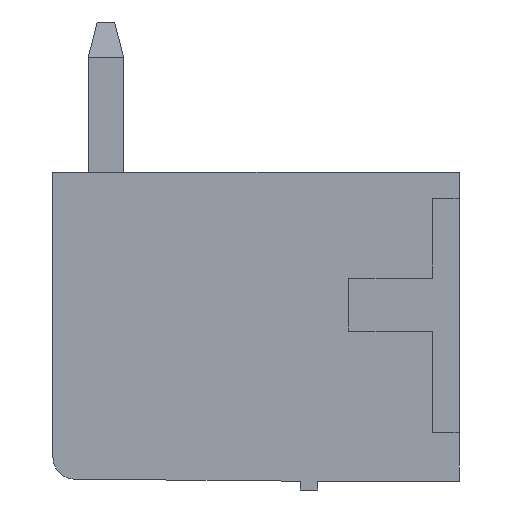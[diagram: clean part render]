
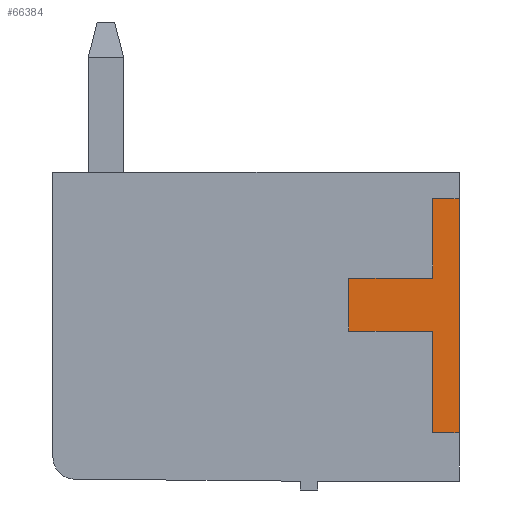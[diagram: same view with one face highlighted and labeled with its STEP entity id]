
A CAD part, left-side view. The second image highlights one B-rep face of the part: STEP entity #66384.
In plain terms, the highlighted planar face has unit normal (-1, 0, 0).
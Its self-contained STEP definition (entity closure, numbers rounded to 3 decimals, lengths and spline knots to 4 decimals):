
#44 = PLANE('',#45);
#45 = AXIS2_PLACEMENT_3D('',#46,#47,#48);
#46 = CARTESIAN_POINT('',(0.,0.,7.));
#47 = DIRECTION('',(0.,-1.,0.));
#48 = DIRECTION('',(0.,0.,-1.));
#363 = VERTEX_POINT('',#364);
#364 = CARTESIAN_POINT('',(-0.2,0.,1.1));
#378 = PLANE('',#379);
#379 = AXIS2_PLACEMENT_3D('',#380,#381,#382);
#380 = CARTESIAN_POINT('',(0.,0.6,1.1));
#381 = DIRECTION('',(0.,0.,-1.));
#382 = DIRECTION('',(0.,-1.,0.));
#390 = EDGE_CURVE('',#363,#391,#393,.T.);
#391 = VERTEX_POINT('',#392);
#392 = CARTESIAN_POINT('',(-0.2,0.,6.4));
#393 = SURFACE_CURVE('',#394,(#398,#405),.PCURVE_S1.);
#394 = LINE('',#395,#396);
#395 = CARTESIAN_POINT('',(-0.2,0.,1.1));
#396 = VECTOR('',#397,1.);
#397 = DIRECTION('',(0.,0.,1.));
#398 = PCURVE('',#44,#399);
#399 = DEFINITIONAL_REPRESENTATION('',(#400),#404);
#400 = LINE('',#401,#402);
#401 = CARTESIAN_POINT('',(5.9,-0.2));
#402 = VECTOR('',#403,1.);
#403 = DIRECTION('',(-1.,0.));
#404 = ( GEOMETRIC_REPRESENTATION_CONTEXT(2) 
PARAMETRIC_REPRESENTATION_CONTEXT() REPRESENTATION_CONTEXT('2D SPACE',''
  ) );
#405 = PCURVE('',#406,#411);
#406 = PLANE('',#407);
#407 = AXIS2_PLACEMENT_3D('',#408,#409,#410);
#408 = CARTESIAN_POINT('',(-0.2,0.,0.));
#409 = DIRECTION('',(-1.,0.,0.));
#410 = DIRECTION('',(0.,0.,1.));
#411 = DEFINITIONAL_REPRESENTATION('',(#412),#416);
#412 = LINE('',#413,#414);
#413 = CARTESIAN_POINT('',(1.1,0.));
#414 = VECTOR('',#415,1.);
#415 = DIRECTION('',(1.,0.));
#416 = ( GEOMETRIC_REPRESENTATION_CONTEXT(2) 
PARAMETRIC_REPRESENTATION_CONTEXT() REPRESENTATION_CONTEXT('2D SPACE',''
  ) );
#434 = PLANE('',#435);
#435 = AXIS2_PLACEMENT_3D('',#436,#437,#438);
#436 = CARTESIAN_POINT('',(0.,0.,6.4));
#437 = DIRECTION('',(0.,0.,1.));
#438 = DIRECTION('',(0.,1.,0.));
#18736 = PLANE('',#18737);
#18737 = AXIS2_PLACEMENT_3D('',#18738,#18739,#18740);
#18738 = CARTESIAN_POINT('',(0.,0.6,6.4));
#18739 = DIRECTION('',(0.,1.,0.));
#18740 = DIRECTION('',(0.,0.,-1.));
#18764 = PLANE('',#18765);
#18765 = AXIS2_PLACEMENT_3D('',#18766,#18767,#18768);
#18766 = CARTESIAN_POINT('',(0.,0.6,4.6));
#18767 = DIRECTION('',(0.,0.,1.));
#18768 = DIRECTION('',(0.,1.,0.));
#18792 = PLANE('',#18793);
#18793 = AXIS2_PLACEMENT_3D('',#18794,#18795,#18796);
#18794 = CARTESIAN_POINT('',(0.,2.5,4.6));
#18795 = DIRECTION('',(0.,1.,0.));
#18796 = DIRECTION('',(0.,0.,-1.));
#18820 = PLANE('',#18821);
#18821 = AXIS2_PLACEMENT_3D('',#18822,#18823,#18824);
#18822 = CARTESIAN_POINT('',(0.,2.5,3.4));
#18823 = DIRECTION('',(0.,0.,-1.));
#18824 = DIRECTION('',(0.,-1.,0.));
#18848 = PLANE('',#18849);
#18849 = AXIS2_PLACEMENT_3D('',#18850,#18851,#18852);
#18850 = CARTESIAN_POINT('',(0.,0.6,3.4));
#18851 = DIRECTION('',(0.,1.,0.));
#18852 = DIRECTION('',(0.,0.,-1.));
#66341 = EDGE_CURVE('',#391,#66342,#66344,.T.);
#66342 = VERTEX_POINT('',#66343);
#66343 = CARTESIAN_POINT('',(-0.2,0.6,6.4));
#66344 = SURFACE_CURVE('',#66345,(#66349,#66356),.PCURVE_S1.);
#66345 = LINE('',#66346,#66347);
#66346 = CARTESIAN_POINT('',(-0.2,0.,6.4));
#66347 = VECTOR('',#66348,1.);
#66348 = DIRECTION('',(0.,1.,0.));
#66349 = PCURVE('',#434,#66350);
#66350 = DEFINITIONAL_REPRESENTATION('',(#66351),#66355);
#66351 = LINE('',#66352,#66353);
#66352 = CARTESIAN_POINT('',(0.,0.2));
#66353 = VECTOR('',#66354,1.);
#66354 = DIRECTION('',(1.,0.));
#66355 = ( GEOMETRIC_REPRESENTATION_CONTEXT(2) 
PARAMETRIC_REPRESENTATION_CONTEXT() REPRESENTATION_CONTEXT('2D SPACE',''
  ) );
#66356 = PCURVE('',#406,#66357);
#66357 = DEFINITIONAL_REPRESENTATION('',(#66358),#66362);
#66358 = LINE('',#66359,#66360);
#66359 = CARTESIAN_POINT('',(6.4,0.));
#66360 = VECTOR('',#66361,1.);
#66361 = DIRECTION('',(0.,1.));
#66362 = ( GEOMETRIC_REPRESENTATION_CONTEXT(2) 
PARAMETRIC_REPRESENTATION_CONTEXT() REPRESENTATION_CONTEXT('2D SPACE',''
  ) );
#66384 = ADVANCED_FACE('',(#66385),#406,.T.);
#66385 = FACE_BOUND('',#66386,.F.);
#66386 = EDGE_LOOP('',(#66387,#66388,#66389,#66412,#66435,#66458,#66481,
    #66504));
#66387 = ORIENTED_EDGE('',*,*,#66341,.F.);
#66388 = ORIENTED_EDGE('',*,*,#390,.F.);
#66389 = ORIENTED_EDGE('',*,*,#66390,.F.);
#66390 = EDGE_CURVE('',#66391,#363,#66393,.T.);
#66391 = VERTEX_POINT('',#66392);
#66392 = CARTESIAN_POINT('',(-0.2,0.6,1.1));
#66393 = SURFACE_CURVE('',#66394,(#66398,#66405),.PCURVE_S1.);
#66394 = LINE('',#66395,#66396);
#66395 = CARTESIAN_POINT('',(-0.2,0.6,1.1));
#66396 = VECTOR('',#66397,1.);
#66397 = DIRECTION('',(0.,-1.,0.));
#66398 = PCURVE('',#406,#66399);
#66399 = DEFINITIONAL_REPRESENTATION('',(#66400),#66404);
#66400 = LINE('',#66401,#66402);
#66401 = CARTESIAN_POINT('',(1.1,0.6));
#66402 = VECTOR('',#66403,1.);
#66403 = DIRECTION('',(0.,-1.));
#66404 = ( GEOMETRIC_REPRESENTATION_CONTEXT(2) 
PARAMETRIC_REPRESENTATION_CONTEXT() REPRESENTATION_CONTEXT('2D SPACE',''
  ) );
#66405 = PCURVE('',#378,#66406);
#66406 = DEFINITIONAL_REPRESENTATION('',(#66407),#66411);
#66407 = LINE('',#66408,#66409);
#66408 = CARTESIAN_POINT('',(0.,0.2));
#66409 = VECTOR('',#66410,1.);
#66410 = DIRECTION('',(1.,0.));
#66411 = ( GEOMETRIC_REPRESENTATION_CONTEXT(2) 
PARAMETRIC_REPRESENTATION_CONTEXT() REPRESENTATION_CONTEXT('2D SPACE',''
  ) );
#66412 = ORIENTED_EDGE('',*,*,#66413,.F.);
#66413 = EDGE_CURVE('',#66414,#66391,#66416,.T.);
#66414 = VERTEX_POINT('',#66415);
#66415 = CARTESIAN_POINT('',(-0.2,0.6,3.4));
#66416 = SURFACE_CURVE('',#66417,(#66421,#66428),.PCURVE_S1.);
#66417 = LINE('',#66418,#66419);
#66418 = CARTESIAN_POINT('',(-0.2,0.6,3.4));
#66419 = VECTOR('',#66420,1.);
#66420 = DIRECTION('',(0.,0.,-1.));
#66421 = PCURVE('',#406,#66422);
#66422 = DEFINITIONAL_REPRESENTATION('',(#66423),#66427);
#66423 = LINE('',#66424,#66425);
#66424 = CARTESIAN_POINT('',(3.4,0.6));
#66425 = VECTOR('',#66426,1.);
#66426 = DIRECTION('',(-1.,0.));
#66427 = ( GEOMETRIC_REPRESENTATION_CONTEXT(2) 
PARAMETRIC_REPRESENTATION_CONTEXT() REPRESENTATION_CONTEXT('2D SPACE',''
  ) );
#66428 = PCURVE('',#18848,#66429);
#66429 = DEFINITIONAL_REPRESENTATION('',(#66430),#66434);
#66430 = LINE('',#66431,#66432);
#66431 = CARTESIAN_POINT('',(0.,0.2));
#66432 = VECTOR('',#66433,1.);
#66433 = DIRECTION('',(1.,0.));
#66434 = ( GEOMETRIC_REPRESENTATION_CONTEXT(2) 
PARAMETRIC_REPRESENTATION_CONTEXT() REPRESENTATION_CONTEXT('2D SPACE',''
  ) );
#66435 = ORIENTED_EDGE('',*,*,#66436,.F.);
#66436 = EDGE_CURVE('',#66437,#66414,#66439,.T.);
#66437 = VERTEX_POINT('',#66438);
#66438 = CARTESIAN_POINT('',(-0.2,2.5,3.4));
#66439 = SURFACE_CURVE('',#66440,(#66444,#66451),.PCURVE_S1.);
#66440 = LINE('',#66441,#66442);
#66441 = CARTESIAN_POINT('',(-0.2,2.5,3.4));
#66442 = VECTOR('',#66443,1.);
#66443 = DIRECTION('',(0.,-1.,0.));
#66444 = PCURVE('',#406,#66445);
#66445 = DEFINITIONAL_REPRESENTATION('',(#66446),#66450);
#66446 = LINE('',#66447,#66448);
#66447 = CARTESIAN_POINT('',(3.4,2.5));
#66448 = VECTOR('',#66449,1.);
#66449 = DIRECTION('',(0.,-1.));
#66450 = ( GEOMETRIC_REPRESENTATION_CONTEXT(2) 
PARAMETRIC_REPRESENTATION_CONTEXT() REPRESENTATION_CONTEXT('2D SPACE',''
  ) );
#66451 = PCURVE('',#18820,#66452);
#66452 = DEFINITIONAL_REPRESENTATION('',(#66453),#66457);
#66453 = LINE('',#66454,#66455);
#66454 = CARTESIAN_POINT('',(0.,0.2));
#66455 = VECTOR('',#66456,1.);
#66456 = DIRECTION('',(1.,0.));
#66457 = ( GEOMETRIC_REPRESENTATION_CONTEXT(2) 
PARAMETRIC_REPRESENTATION_CONTEXT() REPRESENTATION_CONTEXT('2D SPACE',''
  ) );
#66458 = ORIENTED_EDGE('',*,*,#66459,.F.);
#66459 = EDGE_CURVE('',#66460,#66437,#66462,.T.);
#66460 = VERTEX_POINT('',#66461);
#66461 = CARTESIAN_POINT('',(-0.2,2.5,4.6));
#66462 = SURFACE_CURVE('',#66463,(#66467,#66474),.PCURVE_S1.);
#66463 = LINE('',#66464,#66465);
#66464 = CARTESIAN_POINT('',(-0.2,2.5,4.6));
#66465 = VECTOR('',#66466,1.);
#66466 = DIRECTION('',(0.,0.,-1.));
#66467 = PCURVE('',#406,#66468);
#66468 = DEFINITIONAL_REPRESENTATION('',(#66469),#66473);
#66469 = LINE('',#66470,#66471);
#66470 = CARTESIAN_POINT('',(4.6,2.5));
#66471 = VECTOR('',#66472,1.);
#66472 = DIRECTION('',(-1.,0.));
#66473 = ( GEOMETRIC_REPRESENTATION_CONTEXT(2) 
PARAMETRIC_REPRESENTATION_CONTEXT() REPRESENTATION_CONTEXT('2D SPACE',''
  ) );
#66474 = PCURVE('',#18792,#66475);
#66475 = DEFINITIONAL_REPRESENTATION('',(#66476),#66480);
#66476 = LINE('',#66477,#66478);
#66477 = CARTESIAN_POINT('',(0.,0.2));
#66478 = VECTOR('',#66479,1.);
#66479 = DIRECTION('',(1.,0.));
#66480 = ( GEOMETRIC_REPRESENTATION_CONTEXT(2) 
PARAMETRIC_REPRESENTATION_CONTEXT() REPRESENTATION_CONTEXT('2D SPACE',''
  ) );
#66481 = ORIENTED_EDGE('',*,*,#66482,.F.);
#66482 = EDGE_CURVE('',#66483,#66460,#66485,.T.);
#66483 = VERTEX_POINT('',#66484);
#66484 = CARTESIAN_POINT('',(-0.2,0.6,4.6));
#66485 = SURFACE_CURVE('',#66486,(#66490,#66497),.PCURVE_S1.);
#66486 = LINE('',#66487,#66488);
#66487 = CARTESIAN_POINT('',(-0.2,0.6,4.6));
#66488 = VECTOR('',#66489,1.);
#66489 = DIRECTION('',(0.,1.,0.));
#66490 = PCURVE('',#406,#66491);
#66491 = DEFINITIONAL_REPRESENTATION('',(#66492),#66496);
#66492 = LINE('',#66493,#66494);
#66493 = CARTESIAN_POINT('',(4.6,0.6));
#66494 = VECTOR('',#66495,1.);
#66495 = DIRECTION('',(0.,1.));
#66496 = ( GEOMETRIC_REPRESENTATION_CONTEXT(2) 
PARAMETRIC_REPRESENTATION_CONTEXT() REPRESENTATION_CONTEXT('2D SPACE',''
  ) );
#66497 = PCURVE('',#18764,#66498);
#66498 = DEFINITIONAL_REPRESENTATION('',(#66499),#66503);
#66499 = LINE('',#66500,#66501);
#66500 = CARTESIAN_POINT('',(0.,0.2));
#66501 = VECTOR('',#66502,1.);
#66502 = DIRECTION('',(1.,0.));
#66503 = ( GEOMETRIC_REPRESENTATION_CONTEXT(2) 
PARAMETRIC_REPRESENTATION_CONTEXT() REPRESENTATION_CONTEXT('2D SPACE',''
  ) );
#66504 = ORIENTED_EDGE('',*,*,#66505,.F.);
#66505 = EDGE_CURVE('',#66342,#66483,#66506,.T.);
#66506 = SURFACE_CURVE('',#66507,(#66511,#66518),.PCURVE_S1.);
#66507 = LINE('',#66508,#66509);
#66508 = CARTESIAN_POINT('',(-0.2,0.6,6.4));
#66509 = VECTOR('',#66510,1.);
#66510 = DIRECTION('',(0.,0.,-1.));
#66511 = PCURVE('',#406,#66512);
#66512 = DEFINITIONAL_REPRESENTATION('',(#66513),#66517);
#66513 = LINE('',#66514,#66515);
#66514 = CARTESIAN_POINT('',(6.4,0.6));
#66515 = VECTOR('',#66516,1.);
#66516 = DIRECTION('',(-1.,0.));
#66517 = ( GEOMETRIC_REPRESENTATION_CONTEXT(2) 
PARAMETRIC_REPRESENTATION_CONTEXT() REPRESENTATION_CONTEXT('2D SPACE',''
  ) );
#66518 = PCURVE('',#18736,#66519);
#66519 = DEFINITIONAL_REPRESENTATION('',(#66520),#66524);
#66520 = LINE('',#66521,#66522);
#66521 = CARTESIAN_POINT('',(0.,0.2));
#66522 = VECTOR('',#66523,1.);
#66523 = DIRECTION('',(1.,0.));
#66524 = ( GEOMETRIC_REPRESENTATION_CONTEXT(2) 
PARAMETRIC_REPRESENTATION_CONTEXT() REPRESENTATION_CONTEXT('2D SPACE',''
  ) );
